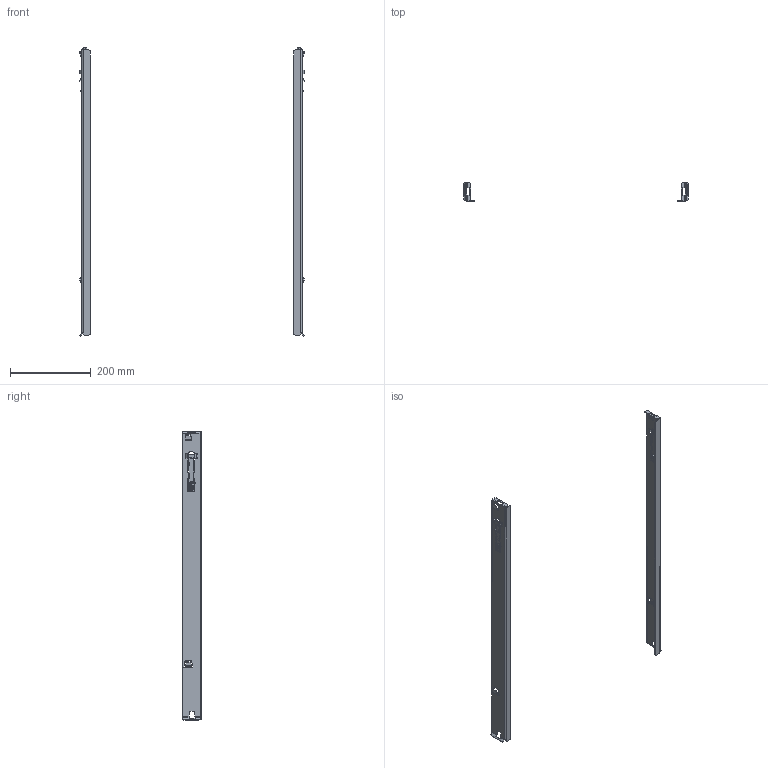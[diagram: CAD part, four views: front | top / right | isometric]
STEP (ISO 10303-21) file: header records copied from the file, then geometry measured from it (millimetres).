
FILE_DESCRIPTION((''),'2;1');
FILE_NAME('C33178_PAIR_231121_ASM','2024-02-21T14:10:15',('juliahuynh'),(''),'CREO PARAMETRIC BY PTC INC, 2022281','CREO PARAMETRIC BY PTC INC, 2022281','');
FILE_SCHEMA(('CONFIG_CONTROL_DESIGN'));
Length unit declared in the file: millimetre
Products named in the file (9): C33178_RH_1_231121; C32615_AF1_1_231121; C33178_RH_ASM_1_231121_ASM; C33178_RH_ASM_231121_ASM; C33178_LH_1_231121; C32615_AF0_1_231121; C33178_LH_ASM_1_231121_ASM; C33178_LH_ASM_231121_ASM; C33178_PAIR_231121_ASM
Assembly tree (8 placements, depth 4):
  C33178_PAIR_231121_ASM
    C33178_RH_ASM_231121_ASM
      C33178_RH_ASM_1_231121_ASM
        C33178_RH_1_231121
        C32615_AF1_1_231121
    C33178_LH_ASM_231121_ASM
      C33178_LH_ASM_1_231121_ASM
        C33178_LH_1_231121
        C32615_AF0_1_231121
Bounding box: 556.01 x 46.45 x 711.36 mm (x, y, z)
Volume: 177729.1 mm3; surface area: 189674.7 mm2
Topology: 4 solids, 4 shells, 852 faces, 2120 edges, 1260 vertices
Faces by surface type: plane 560, cylinder 274, bspline 14, sphere 4
Entity records: 25985 total; most frequent: CARTESIAN_POINT 5385, DIRECTION 4326, ORIENTED_EDGE 4232, EDGE_CURVE 2116, VECTOR 1536, LINE 1536, AXIS2_PLACEMENT_3D 1395, VERTEX_POINT 1260
